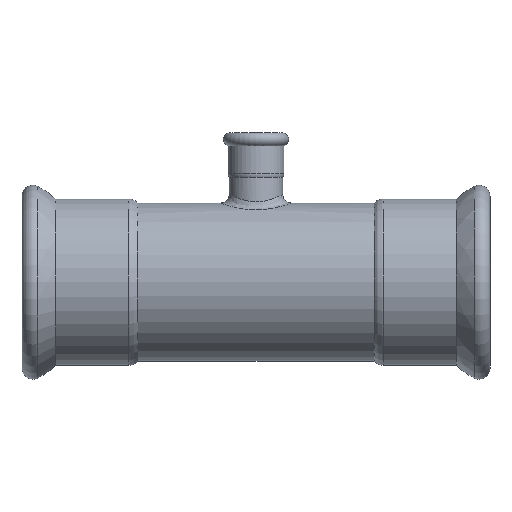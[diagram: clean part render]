
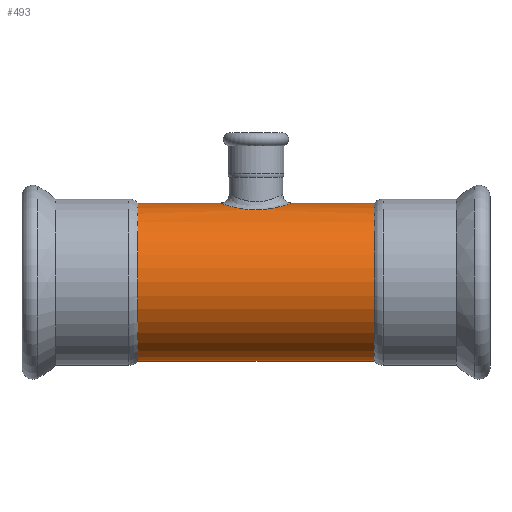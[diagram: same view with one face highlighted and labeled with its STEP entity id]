
A CAD part, front view. The second image highlights one B-rep face of the part: STEP entity #493.
In plain terms, the highlighted cylindrical face has radius 44.45 mm (diameter 88.9 mm), a full revolution.
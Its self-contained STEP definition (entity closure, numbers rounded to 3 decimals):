
#20=B_SPLINE_CURVE_WITH_KNOTS($,3,(#1230,#1231,#1232,#1233,#1234,#1235,
#1236,#1237,#1238,#1239,#1240,#1241,#1242,#1243,#1244,#1245,#1246,#1247,
#1248,#1249,#1250,#1251,#1252,#1253),.UNSPECIFIED.,.T.,.F.,(4,1,1,1,1,1,
1,1,1,1,1,1,1,1,1,1,1,1,3,4),(-9.118,-8.793,-8.467,
-8.141,-7.816,-7.164,-6.513,
-5.862,-5.211,-4.776,-4.342,
-3.908,-3.474,-2.605,-1.954,-1.303,
-0.651,-0.326,0.,0.),
 .UNSPECIFIED.);
#60=FACE_BOUND($,#182,.T.);
#61=FACE_BOUND($,#183,.T.);
#93=CYLINDRICAL_SURFACE($,#565,44.45);
#122=FACE_OUTER_BOUND($,#181,.T.);
#181=EDGE_LOOP($,(#424));
#182=EDGE_LOOP($,(#425));
#183=EDGE_LOOP($,(#426));
#255=CIRCLE($,#566,44.45);
#256=CIRCLE($,#567,44.45);
#300=VERTEX_POINT($,#1203);
#302=VERTEX_POINT($,#1256);
#303=VERTEX_POINT($,#1258);
#352=EDGE_CURVE($,#300,#300,#20,.T.);
#353=EDGE_CURVE($,#302,#302,#255,.T.);
#354=EDGE_CURVE($,#303,#303,#256,.T.);
#424=ORIENTED_EDGE($,*,*,#353,.F.);
#425=ORIENTED_EDGE($,*,*,#354,.T.);
#426=ORIENTED_EDGE($,*,*,#352,.F.);
#493=ADVANCED_FACE($,(#122,#60,#61),#93,.T.);
#565=AXIS2_PLACEMENT_3D($,#1255,#699,#700);
#566=AXIS2_PLACEMENT_3D($,#1257,#701,#702);
#567=AXIS2_PLACEMENT_3D($,#1259,#703,#704);
#699=DIRECTION('center_axis',(1.,0.,0.));
#700=DIRECTION('ref_axis',(0.,1.,0.));
#701=DIRECTION('center_axis',(1.,0.,0.));
#702=DIRECTION('ref_axis',(0.,1.,0.));
#703=DIRECTION('center_axis',(1.,0.,0.));
#704=DIRECTION('ref_axis',(0.,1.,0.));
#1203=CARTESIAN_POINT('',(-131.5,-17.978,40.652));
#1230=CARTESIAN_POINT('Ctrl Pts',(-131.5,-17.978,40.652));
#1231=CARTESIAN_POINT('Ctrl Pts',(-129.997,-17.978,40.652));
#1232=CARTESIAN_POINT('Ctrl Pts',(-126.957,-17.665,40.792));
#1233=CARTESIAN_POINT('Ctrl Pts',(-122.713,-16.317,41.362));
#1234=CARTESIAN_POINT('Ctrl Pts',(-118.908,-14.159,42.162));
#1235=CARTESIAN_POINT('Ctrl Pts',(-114.711,-10.39,43.311));
#1236=CARTESIAN_POINT('Ctrl Pts',(-111.337,-4.214,44.505));
#1237=CARTESIAN_POINT('Ctrl Pts',(-111.335,4.207,44.508));
#1238=CARTESIAN_POINT('Ctrl Pts',(-115.369,11.61,43.074));
#1239=CARTESIAN_POINT('Ctrl Pts',(-121.67,16.143,41.452));
#1240=CARTESIAN_POINT('Ctrl Pts',(-128.423,18.042,40.625));
#1241=CARTESIAN_POINT('Ctrl Pts',(-134.567,18.05,40.622));
#1242=CARTESIAN_POINT('Ctrl Pts',(-140.364,16.409,41.332));
#1243=CARTESIAN_POINT('Ctrl Pts',(-146.952,12.367,42.827));
#1244=CARTESIAN_POINT('Ctrl Pts',(-151.663,5.158,44.511));
#1245=CARTESIAN_POINT('Ctrl Pts',(-151.662,-4.213,44.504));
#1246=CARTESIAN_POINT('Ctrl Pts',(-147.623,-11.621,43.074));
#1247=CARTESIAN_POINT('Ctrl Pts',(-141.715,-15.86,41.552));
#1248=CARTESIAN_POINT('Ctrl Pts',(-136.047,-17.665,40.793));
#1249=CARTESIAN_POINT('Ctrl Pts',(-133.004,-17.978,40.652));
#1250=CARTESIAN_POINT('Ctrl Pts',(-131.5,-17.978,40.652));
#1251=CARTESIAN_POINT('Ctrl Pts',(-131.5,-17.978,40.652));
#1252=CARTESIAN_POINT('Ctrl Pts',(-131.5,-17.978,40.652));
#1253=CARTESIAN_POINT('Ctrl Pts',(-131.5,-17.978,40.652));
#1255=CARTESIAN_POINT('Origin',(-74.594,0.,0.));
#1256=CARTESIAN_POINT('',(-65.187,44.45,0.));
#1257=CARTESIAN_POINT('Origin',(-65.187,0.,0.));
#1258=CARTESIAN_POINT('',(-197.813,44.45,0.));
#1259=CARTESIAN_POINT('Origin',(-197.813,0.,0.));
